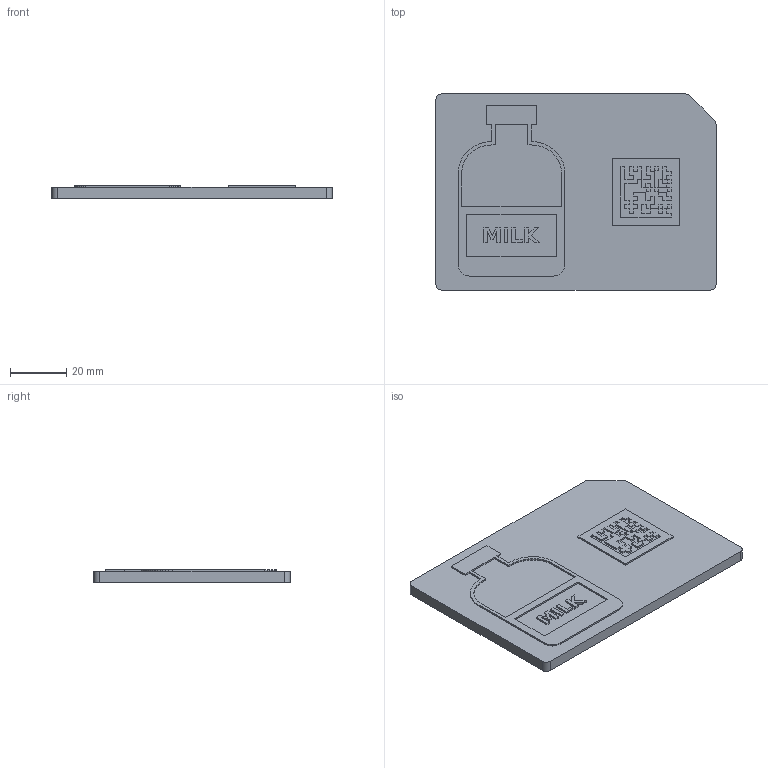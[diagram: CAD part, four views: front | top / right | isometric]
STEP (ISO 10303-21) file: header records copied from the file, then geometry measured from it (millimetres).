
FILE_DESCRIPTION(('Open CASCADE Model'),'2;1');
FILE_NAME('Open CASCADE Shape Model','2026-10-14T18:10:02',('Author'),( 'Open CASCADE'),'Open CASCADE STEP processor 7.9','Open CASCADE 7.9' ,'Unknown');
FILE_SCHEMA(('AUTOMOTIVE_DESIGN { 1 0 10303 214 1 1 1 1 }'));
Length unit declared in the file: millimetre
Products named in the file (3): SN-4824; SN-4824_base_dark; SN-4824_features_red
Assembly tree (2 placements, depth 2):
  SN-4824
    SN-4824_base_dark
    SN-4824_features_red
Bounding box: 100 x 70 x 4.6 mm (x, y, z)
Volume: 28469.2 mm3; surface area: 19366.5 mm2
Topology: 7 solids, 7 shells, 570 faces, 1608 edges, 1072 vertices
Faces by surface type: plane 565, cylinder 5
Entity records: 38569 total; most frequent: CARTESIAN_POINT 7007, DIRECTION 5452, LINE 4278, VECTOR 4278, ORIENTED_EDGE 3216, PCURVE 3216, DEFINITIONAL_REPRESENTATION 3216, EDGE_CURVE 1608
